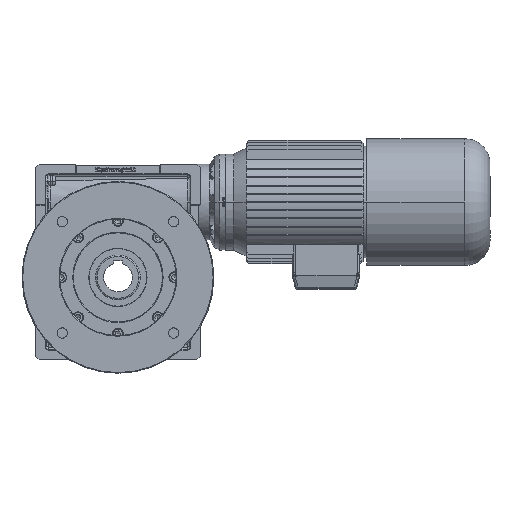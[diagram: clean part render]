
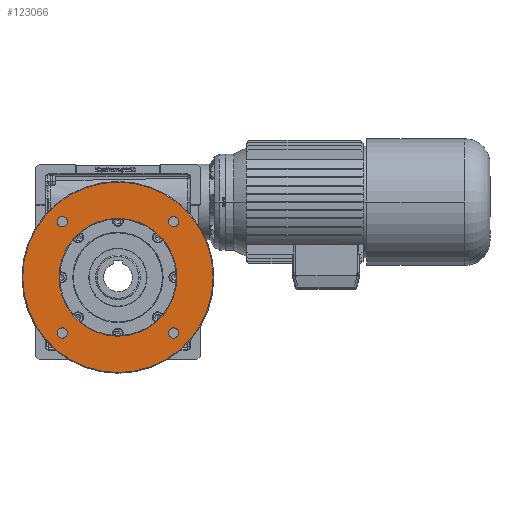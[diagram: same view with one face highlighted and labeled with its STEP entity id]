
A CAD part, top view. The second image highlights one B-rep face of the part: STEP entity #123066.
In plain terms, the highlighted planar face has unit normal (0, 0, 1) as drawn and (1, 0, 0) by its records, which use the part's own axes.
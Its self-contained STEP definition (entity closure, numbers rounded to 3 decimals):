
#122349=CARTESIAN_POINT('',(27.,-68.233,-88.817));
#122350=VERTEX_POINT('',#122349);
#122375=CARTESIAN_POINT('',(27.,-68.233,-73.817));
#122376=VERTEX_POINT('',#122375);
#122383=CARTESIAN_POINT('',(27.,-68.233,-81.317));
#122384=DIRECTION('',(-1.0,0.0,0.0));
#122385=DIRECTION('',(0.0,0.0,-1.0));
#122386=AXIS2_PLACEMENT_3D('',#122383,#122384,#122385);
#122387=CIRCLE('',#122386,7.5);
#122388=EDGE_CURVE('',#122350,#122376,#122387,.T.);
#122421=CARTESIAN_POINT('',(27.,101.902,-81.317));
#122422=VERTEX_POINT('',#122421);
#122447=CARTESIAN_POINT('',(27.,86.902,-81.317));
#122448=VERTEX_POINT('',#122447);
#122455=CARTESIAN_POINT('',(27.,94.402,-81.317));
#122456=DIRECTION('',(-1.0,0.0,0.0));
#122457=DIRECTION('',(0.0,1.0,0.0));
#122458=AXIS2_PLACEMENT_3D('',#122455,#122456,#122457);
#122459=CIRCLE('',#122458,7.5);
#122460=EDGE_CURVE('',#122422,#122448,#122459,.T.);
#122493=CARTESIAN_POINT('',(27.,94.402,88.817));
#122494=VERTEX_POINT('',#122493);
#122519=CARTESIAN_POINT('',(27.,94.402,73.817));
#122520=VERTEX_POINT('',#122519);
#122527=CARTESIAN_POINT('',(27.,94.402,81.317));
#122528=DIRECTION('',(-1.0,0.0,0.0));
#122529=DIRECTION('',(0.0,0.0,1.0));
#122530=AXIS2_PLACEMENT_3D('',#122527,#122528,#122529);
#122531=CIRCLE('',#122530,7.5);
#122532=EDGE_CURVE('',#122494,#122520,#122531,.T.);
#122565=CARTESIAN_POINT('',(27.,-75.733,81.317));
#122566=VERTEX_POINT('',#122565);
#122591=CARTESIAN_POINT('',(27.,-60.733,81.317));
#122592=VERTEX_POINT('',#122591);
#122599=CARTESIAN_POINT('',(27.,-68.233,81.317));
#122600=DIRECTION('',(-1.0,0.0,0.0));
#122601=DIRECTION('',(0.0,-1.0,0.0));
#122602=AXIS2_PLACEMENT_3D('',#122599,#122600,#122601);
#122603=CIRCLE('',#122602,7.5);
#122604=EDGE_CURVE('',#122566,#122592,#122603,.T.);
#122892=CARTESIAN_POINT('',(27.,13.085,86.0));
#122893=VERTEX_POINT('',#122892);
#122901=CARTESIAN_POINT('',(27.,13.085,-86.0));
#122902=VERTEX_POINT('',#122901);
#122909=CARTESIAN_POINT('',(27.,13.085,0.0));
#122910=DIRECTION('',(1.0,0.0,0.0));
#122911=DIRECTION('',(0.0,0.0,1.0));
#122912=AXIS2_PLACEMENT_3D('',#122909,#122910,#122911);
#122913=CIRCLE('',#122912,86.0);
#122914=EDGE_CURVE('',#122902,#122893,#122913,.T.);
#122956=CARTESIAN_POINT('',(27.0,-125.915,0.));
#122957=VERTEX_POINT('',#122956);
#122971=CARTESIAN_POINT('',(27.,152.085,0.));
#122972=VERTEX_POINT('',#122971);
#122979=CARTESIAN_POINT('',(27.,13.085,0.0));
#122980=DIRECTION('',(-1.0,0.0,0.0));
#122981=DIRECTION('',(0.0,-1.0,0.0));
#122982=AXIS2_PLACEMENT_3D('',#122979,#122980,#122981);
#122983=CIRCLE('',#122982,139.0);
#122984=EDGE_CURVE('',#122972,#122957,#122983,.T.);
#122995=CARTESIAN_POINT('',(27.,13.085,0.0));
#122996=DIRECTION('',(-1.0,0.0,0.0));
#122997=DIRECTION('',(0.0,-1.0,0.0));
#122998=AXIS2_PLACEMENT_3D('',#122995,#122996,#122997);
#122999=CIRCLE('',#122998,139.0);
#123000=EDGE_CURVE('',#122957,#122972,#122999,.T.);
#123007=CARTESIAN_POINT('',(27.,83.085,0.0));
#123008=DIRECTION('',(1.0,0.0,0.0));
#123009=DIRECTION('',(0.0,0.0,-1.0));
#123010=AXIS2_PLACEMENT_3D('',#123007,#123008,#123009);
#123011=PLANE('',#123010);
#123012=ORIENTED_EDGE('',*,*,#122984,.F.);
#123013=ORIENTED_EDGE('',*,*,#123000,.F.);
#123014=EDGE_LOOP('',(#123012,#123013));
#123015=FACE_OUTER_BOUND('',#123014,.T.);
#123016=ORIENTED_EDGE('',*,*,#122914,.F.);
#123017=CARTESIAN_POINT('',(27.,13.085,0.0));
#123018=DIRECTION('',(1.0,0.0,0.0));
#123019=DIRECTION('',(0.0,0.0,1.0));
#123020=AXIS2_PLACEMENT_3D('',#123017,#123018,#123019);
#123021=CIRCLE('',#123020,86.0);
#123022=EDGE_CURVE('',#122893,#122902,#123021,.T.);
#123023=ORIENTED_EDGE('',*,*,#123022,.F.);
#123024=EDGE_LOOP('',(#123016,#123023));
#123025=FACE_BOUND('',#123024,.T.);
#123026=ORIENTED_EDGE('',*,*,#122604,.T.);
#123027=CARTESIAN_POINT('',(27.,-68.233,81.317));
#123028=DIRECTION('',(-1.0,0.0,0.0));
#123029=DIRECTION('',(0.0,-1.0,0.0));
#123030=AXIS2_PLACEMENT_3D('',#123027,#123028,#123029);
#123031=CIRCLE('',#123030,7.5);
#123032=EDGE_CURVE('',#122592,#122566,#123031,.T.);
#123033=ORIENTED_EDGE('',*,*,#123032,.T.);
#123034=EDGE_LOOP('',(#123026,#123033));
#123035=FACE_BOUND('',#123034,.T.);
#123036=ORIENTED_EDGE('',*,*,#122532,.T.);
#123037=CARTESIAN_POINT('',(27.,94.402,81.317));
#123038=DIRECTION('',(-1.0,0.0,0.0));
#123039=DIRECTION('',(0.0,0.0,1.0));
#123040=AXIS2_PLACEMENT_3D('',#123037,#123038,#123039);
#123041=CIRCLE('',#123040,7.5);
#123042=EDGE_CURVE('',#122520,#122494,#123041,.T.);
#123043=ORIENTED_EDGE('',*,*,#123042,.T.);
#123044=EDGE_LOOP('',(#123036,#123043));
#123045=FACE_BOUND('',#123044,.T.);
#123046=ORIENTED_EDGE('',*,*,#122460,.T.);
#123047=CARTESIAN_POINT('',(27.,94.402,-81.317));
#123048=DIRECTION('',(-1.0,0.0,0.0));
#123049=DIRECTION('',(0.0,1.0,0.0));
#123050=AXIS2_PLACEMENT_3D('',#123047,#123048,#123049);
#123051=CIRCLE('',#123050,7.5);
#123052=EDGE_CURVE('',#122448,#122422,#123051,.T.);
#123053=ORIENTED_EDGE('',*,*,#123052,.T.);
#123054=EDGE_LOOP('',(#123046,#123053));
#123055=FACE_BOUND('',#123054,.T.);
#123056=ORIENTED_EDGE('',*,*,#122388,.T.);
#123057=CARTESIAN_POINT('',(27.,-68.233,-81.317));
#123058=DIRECTION('',(-1.0,0.0,0.0));
#123059=DIRECTION('',(0.0,0.0,-1.0));
#123060=AXIS2_PLACEMENT_3D('',#123057,#123058,#123059);
#123061=CIRCLE('',#123060,7.5);
#123062=EDGE_CURVE('',#122376,#122350,#123061,.T.);
#123063=ORIENTED_EDGE('',*,*,#123062,.T.);
#123064=EDGE_LOOP('',(#123056,#123063));
#123065=FACE_BOUND('',#123064,.T.);
#123066=ADVANCED_FACE('',(#123015,#123025,#123035,#123045,#123055,#123065),#123011,.T.);
